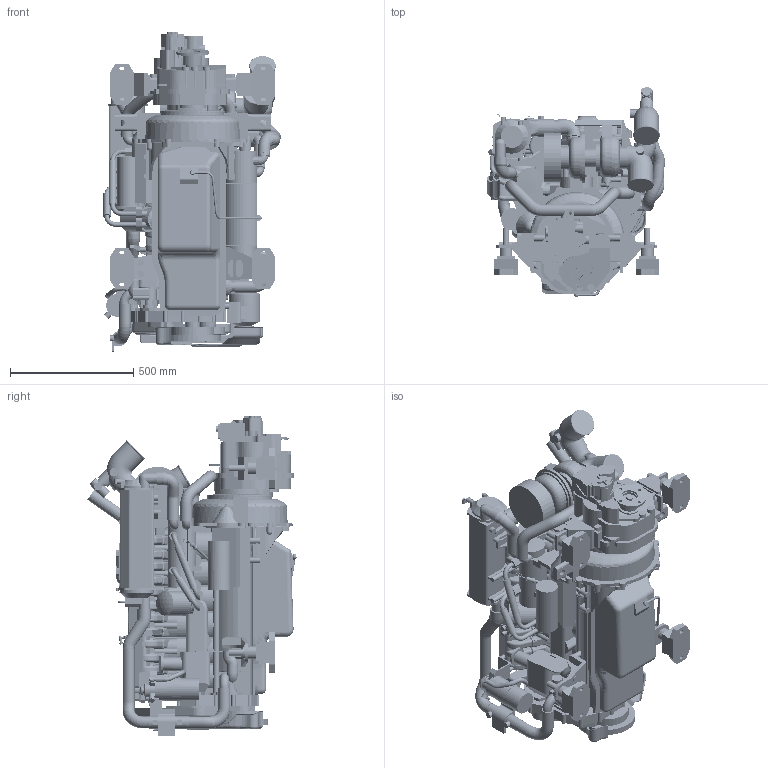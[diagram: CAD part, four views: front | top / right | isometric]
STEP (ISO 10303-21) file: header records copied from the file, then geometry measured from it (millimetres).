
FILE_DESCRIPTION(('CoCreate Modeling STEP Export'),'2;1');
FILE_NAME('6LPA-STP2_KMH50A.stp','2013-04-12T11:01:35',(''),(''),'CoCreate Modeling STEP processor for AP214 (Solid Model)','CoCreate Modeling 16.50A 01-Dec-2009 (C) Parametric Technology GmbH','');
FILE_SCHEMA(('AUTOMOTIVE_DESIGN { 1 0 10303 214 1 1 1 1 }'));
Length unit declared in the file: millimetre
Products named in the file (69): C.O.G._1; C.O.G._2; C.O.G._3; C.O.G._4; C.O.G._6; C.O.G._5; Center_of_gravity; KMH50A_LP_002; KMH50A_LP_001; KMH50A_LP_007; KMH50A_LP_008; KMH50A_LP_005; KMH50A_LP_006; KMH50A_LP_003; KMH50A_LP_004; KMH50A_Gearbox-LP; 6LPA-STP2_036; 6LPA-STP2_026; 6LPA-STP2_027; 6LPA-STP2_024; 6LPA-STP2_015; 6LPA-STP2_014; 6LPA-STP2_003; 6LPA-STP2_006; 6LPA-STP2_007; 6LPA-STP2_002; 6LPA-STP2_001; 6LPA-STP2_004; 6LPA-STP2_005; 6LPA-STP2_032; 6LPA-STP2_009; 6LPA-STP2_010; 6LPA-STP2_011; 6LPA-STP2_012; 6LPA-STP2_013; 6LPA-STP2_016; 6LPA-STP2_017; 6LPA-STP2_018; 6LPA-STP2_020; 6LPA-STP2_031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
Assembly tree (68 placements, depth 5):
  6LPA-STP2_KMH50A
    6LPA-STP2_Engine_Gearbox
      Dipstick
        2-Option
          Dipstick-opt_001
        1-Standard
          Dipstick-std_001
      Mixing-elbow
        2-Option
          Mixing-elbow-opt_002
          Mixing-elbow-opt_001
        1-Standard
          Mixing-elbow-std_001
          Mixing-elbow-std_002
      Base
        6LPA-STP2_038
        6LPA-STP2_033
        6LPA-STP2_034
        6LPA-STP2_008
        6LPA-STP2_019
        6LPA-STP2_030
        6LPA-STP2_029
        6LPA-STP2_025
        6LPA-STP2_035
        6LPA-STP2_028
        6LPA-STP2_037
        6LPA-STP2_022
        6LPA-STP2_023
        6LPA-STP2_021
        6LPA-STP2_031
        6LPA-STP2_020
        6LPA-STP2_018
        6LPA-STP2_017
        6LPA-STP2_016
        6LPA-STP2_013
        6LPA-STP2_012
        6LPA-STP2_011
        6LPA-STP2_010
        6LPA-STP2_009
        6LPA-STP2_032
        6LPA-STP2_005
        6LPA-STP2_004
        6LPA-STP2_001
        6LPA-STP2_002
        6LPA-STP2_007
        6LPA-STP2_006
        6LPA-STP2_003
        6LPA-STP2_014
        6LPA-STP2_015
        6LPA-STP2_024
        6LPA-STP2_027
        6LPA-STP2_026
        6LPA-STP2_036
    KMH50A_Gearbox-LP
      KMH50A_LP_004
      KMH50A_LP_003
      KMH50A_LP_006
      KMH50A_LP_005
      KMH50A_LP_008
      KMH50A_LP_007
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Bounding box: 720.94 x 849.72 x 1298.8 mm (x, y, z)
Volume: 196478201.1 mm3; surface area: 9574345.9 mm2
Topology: 58 solids, 58 shells, 5623 faces, 15299 edges, 9957 vertices
Faces by surface type: plane 2659, cylinder 2218, torus 411, bspline 188, cone 59, extrusion 58, sphere 30
Entity records: 187140 total; most frequent: CARTESIAN_POINT 52469, ORIENTED_EDGE 30546, DIRECTION 25105, EDGE_CURVE 15273, VERTEX_POINT 9957, AXIS2_PLACEMENT_3D 8395, VECTOR 8315, LINE 8258
